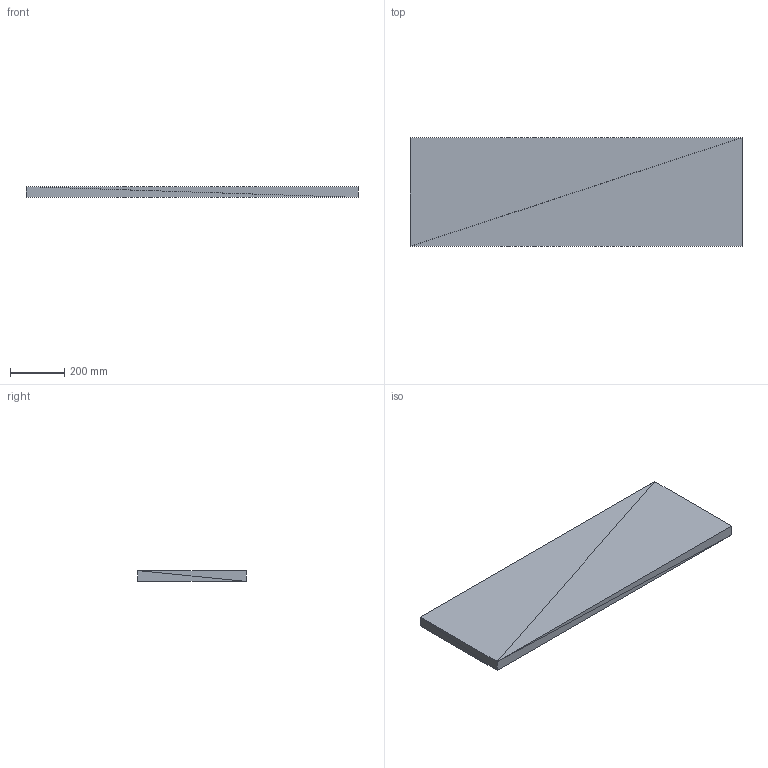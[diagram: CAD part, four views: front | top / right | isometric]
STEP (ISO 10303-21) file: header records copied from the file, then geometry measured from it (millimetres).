
FILE_DESCRIPTION(('ISINAC STEP AP214'),'2;1');
FILE_NAME('ISINAC_R.1220.400_40mm_ADHESIVO','2026-05-03T10:49:19',('ISINAC'),('www.isinac.com'),'ISINAC BIM Generator 1.0','','');
FILE_SCHEMA(('AUTOMOTIVE_DESIGN'));
Length unit declared in the file: millimetre
Products named in the file (1): ISINAC_R.1220.400_40mm_ADHESIVO
Bounding box: 1220 x 400 x 40 mm (x, y, z)
Surface area: 1105600 mm2 (no closed solid volume)
Topology: 0 solids, 12 shells, 12 faces, 36 edges, 36 vertices
Faces by surface type: plane 12
Entity records: 145 total; most frequent: CARTESIAN_POINT 48, DIRECTION 24, POLY_LOOP 12, FACE_OUTER_BOUND 12, AXIS2_PLACEMENT_3D 12, PLANE 12, FACE_SURFACE 12, CLOSED_SHELL 1
